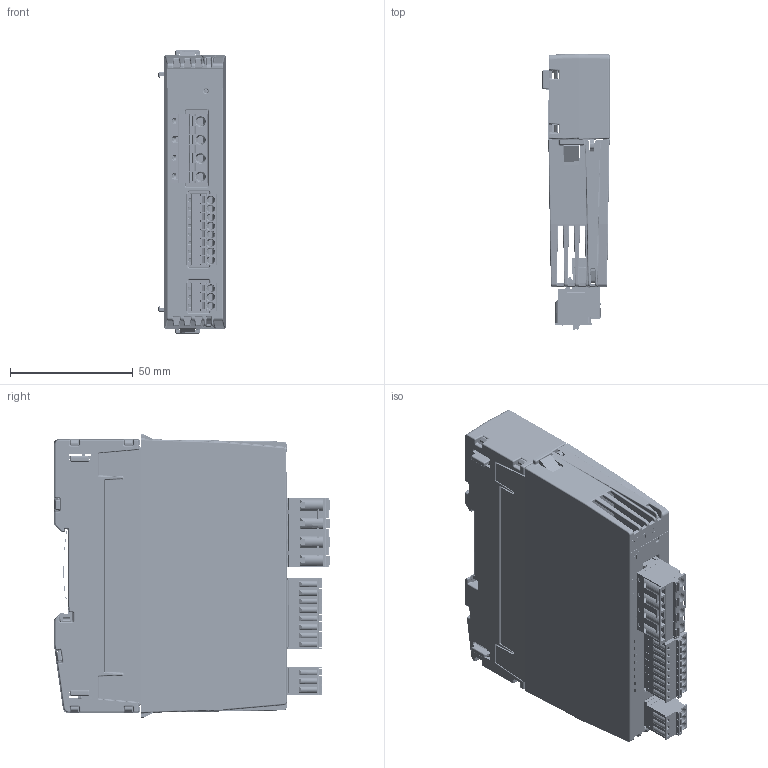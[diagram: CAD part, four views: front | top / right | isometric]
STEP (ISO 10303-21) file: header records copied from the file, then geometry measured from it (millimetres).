
FILE_DESCRIPTION(/* description */ (''),/* implementation_level */ '2;1');
FILE_NAME(/* name */ 'C:\Users\Public\Documents\Autodesk\Inventor 2023\PM04A_Simplified+BackBB21A.stp',/* time_stamp */ '2024-10-18T22:19:56+02:00',/* author */ ('shoma'),/* organization */ (''),/* preprocessor_version */ 'ST-DEVELOPER v19',/* originating_system */ 'Autodesk Inventor 2023',/* authorisation */ '');
FILE_SCHEMA (('AUTOMOTIVE_DESIGN { 1 0 10303 214 3 1 1 }'));
Products named in the file (1): PM04A_Simplified+BackBB21A
Bounding box: 27.4 x 112.6 x 115.5 mm (x, y, z)
Volume: 135794.4 mm3; surface area: 89497.2 mm2
Topology: 7 solids, 42 shells, 8444 faces, 22666 edges, 14267 vertices
Faces by surface type: plane 5483, cylinder 2072, bspline 541, sphere 163, cone 139, torus 46
Full cylindrical faces by diameter (mm): 0.296 x2, 0.3 x36, 0.434 x1, 0.457 x2, 0.7 x36, 0.8 x6, 0.85 x24, 0.9 x8, 1.17 x11, 1.25 x11, 1.3 x11, 1.4 x8, 1.5 x4, 1.6 x9, 2.35 x2, 2.5 x1, 2.8 x3, 3 x5, 3.1 x11, 3.25 x2, 4 x4
Entity records: 286364 total; most frequent: CARTESIAN_POINT 66363, ORIENTED_EDGE 44986, DIRECTION 42700, EDGE_CURVE 22493, LINE 16494, VECTOR 16494, VERTEX_POINT 14263, AXIS2_PLACEMENT_3D 13103
